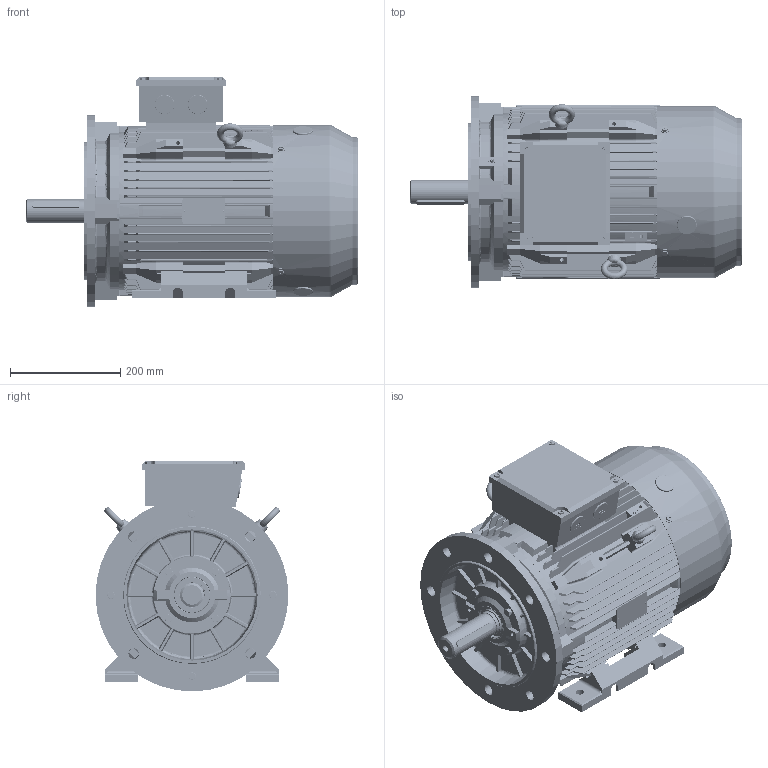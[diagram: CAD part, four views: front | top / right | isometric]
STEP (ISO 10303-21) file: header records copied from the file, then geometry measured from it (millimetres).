
FILE_DESCRIPTION (( 'STEP AP214' ), '1' );
FILE_NAME ('BCT4110.16E235.11.step', '2020-04-23T13:34:15', ( '' ), ( '' ), 'SwSTEP 2.0', 'SolidWorks 2019', '' );
FILE_SCHEMA (( 'AUTOMOTIVE_DESIGN' ));
Length unit declared in the file: millimetre
Products named in the file (1): BCT4110.16E235.11
Bounding box: 602.5 x 350 x 419 mm (x, y, z)
Volume: 9375454.4 mm3; surface area: 2819558.5 mm2
Topology: 53 solids, 54 shells, 6959 faces, 19892 edges, 12989 vertices
Faces by surface type: plane 3296, cylinder 2562, cone 458, torus 414, bspline 125, sphere 104
Entity records: 270855 total; most frequent: CARTESIAN_POINT 87376, ORIENTED_EDGE 39356, DIRECTION 37175, EDGE_CURVE 19678, AXIS2_PLACEMENT_3D 13096, VERTEX_POINT 12937, VECTOR 10983, LINE 10983
